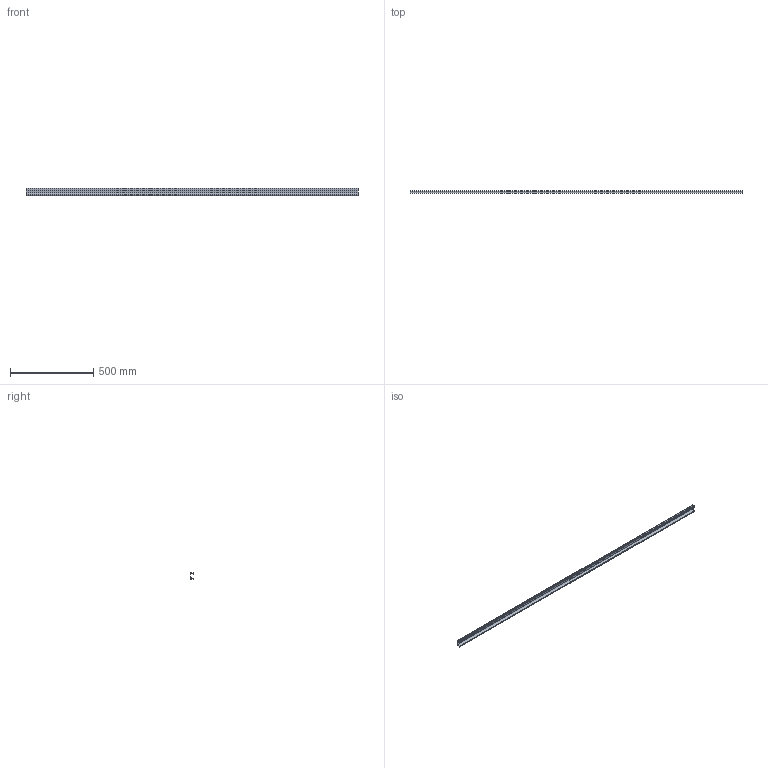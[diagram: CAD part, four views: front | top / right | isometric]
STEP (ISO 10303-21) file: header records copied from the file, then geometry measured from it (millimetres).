
FILE_DESCRIPTION( ( '' ), '1' );
FILE_NAME( 'C:/Documents and Settings/Sachin/Desktop/Sheet 10_1/stp/115314.stp', '2013-10-22T06:01:40', ( '' ), ( '' ), ' ', ' ', ' ' );
FILE_SCHEMA( ( 'CONFIG_CONTROL_DESIGN' ) );
Length unit declared in the file: millimetre
Products named in the file (1): 1
Bounding box: 2000 x 17.5 x 43 mm (x, y, z)
Volume: 442250.1 mm3; surface area: 318840.6 mm2
Topology: 1 solids, 1 shells, 23 faces, 63 edges, 42 vertices
Faces by surface type: plane 18, cylinder 5
Entity records: 771 total; most frequent: CARTESIAN_POINT 129, ORIENTED_EDGE 126, DIRECTION 121, EDGE_CURVE 63, LINE 53, VECTOR 53, VERTEX_POINT 42, AXIS2_PLACEMENT_3D 34
